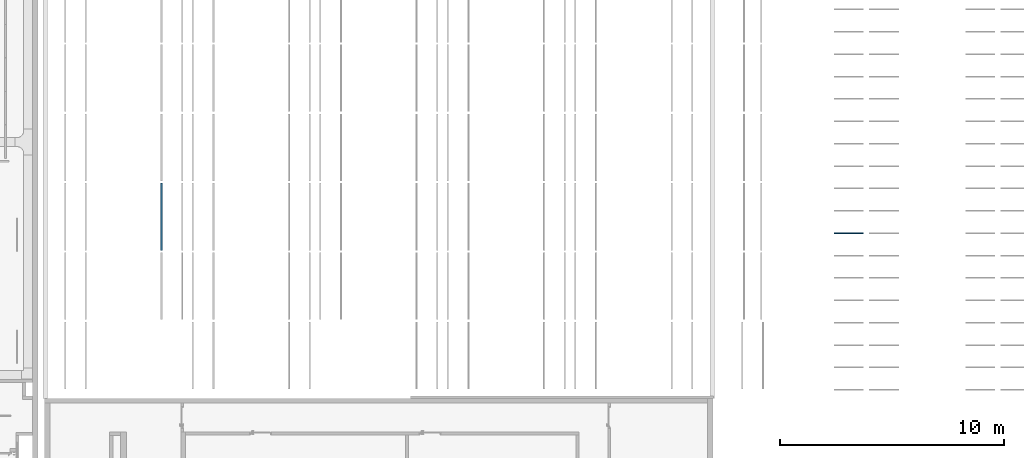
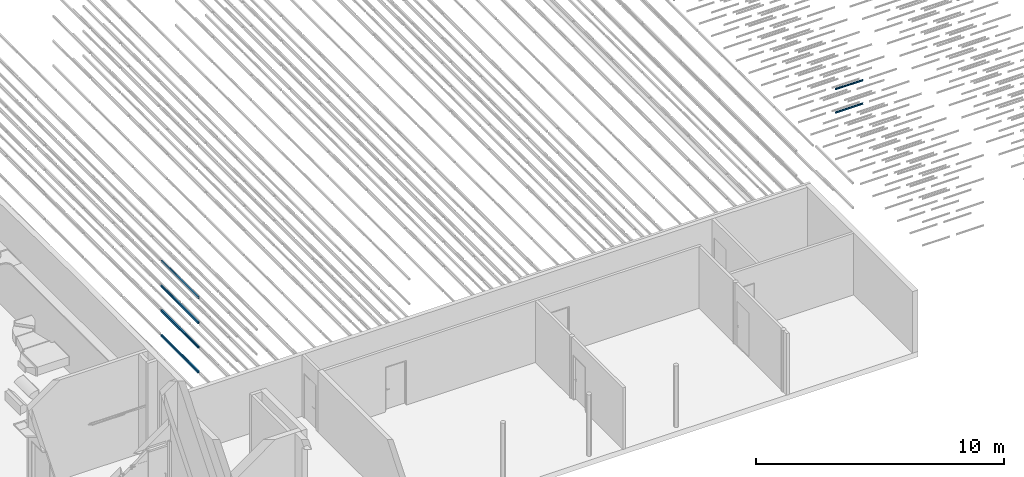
# One storey, part 38 of 290: 8 beams.
"""IFC2X3 building model written with IfcOpenShell, lengths in metres."""

from ifc_helpers import new_model, entity, si_unit, converted_unit, derived_unit, direction, frame, frame_2d, origin, place, context, subcontext, project, spatial, polyline, circle_curve, parameter, trimmed, segment, composite_curve, outline, extrude, material, type_object, element, save


model = new_model("IFC2X3")

# Units and contexts
model_context = context("Model", 3, precision=1e-05, world=origin(), true_north=direction((6.12303176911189e-17, 1.0)))
body_context = subcontext(model_context, "Body", "Model", "MODEL_VIEW")
ifc_project = project(units=[si_unit("LENGTHUNIT", "METRE"), si_unit("AREAUNIT", "SQUARE_METRE"), si_unit("VOLUMEUNIT", "CUBIC_METRE"), converted_unit("PLANEANGLEUNIT", "DEGREE", entity("IfcRatioMeasure", 0.0174532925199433), si_unit("PLANEANGLEUNIT", "RADIAN"), dimensions=[0, 0, 0, 0, 0, 0, 0]), si_unit("MASSUNIT", "GRAM", prefix="KILO"), derived_unit("MASSDENSITYUNIT", [(si_unit("MASSUNIT", "GRAM", prefix="KILO"), 1), (si_unit("LENGTHUNIT", "METRE"), -3)]), derived_unit("MOMENTOFINERTIAUNIT", [(si_unit("LENGTHUNIT", "METRE"), 4)]), si_unit("TIMEUNIT", "SECOND"), si_unit("FREQUENCYUNIT", "HERTZ"), si_unit("THERMODYNAMICTEMPERATUREUNIT", "DEGREE_CELSIUS"), derived_unit("THERMALTRANSMITTANCEUNIT", [(si_unit("MASSUNIT", "GRAM", prefix="KILO"), 1), (si_unit("THERMODYNAMICTEMPERATUREUNIT", "KELVIN"), -1), (si_unit("TIMEUNIT", "SECOND"), -3)]), derived_unit("VOLUMETRICFLOWRATEUNIT", [(si_unit("LENGTHUNIT", "METRE"), 3), (si_unit("TIMEUNIT", "SECOND"), -1)]), si_unit("ELECTRICCURRENTUNIT", "AMPERE"), si_unit("ELECTRICVOLTAGEUNIT", "VOLT"), si_unit("POWERUNIT", "WATT"), si_unit("FORCEUNIT", "NEWTON", prefix="KILO"), si_unit("ILLUMINANCEUNIT", "LUX"), si_unit("LUMINOUSFLUXUNIT", "LUMEN"), si_unit("LUMINOUSINTENSITYUNIT", "CANDELA"), derived_unit("USERDEFINED", [(si_unit("MASSUNIT", "GRAM", prefix="KILO"), -1), (si_unit("LENGTHUNIT", "METRE"), -2), (si_unit("TIMEUNIT", "SECOND"), 3), (si_unit("LUMINOUSFLUXUNIT", "LUMEN"), 1)]), derived_unit("LINEARVELOCITYUNIT", [(si_unit("LENGTHUNIT", "METRE"), 1), (si_unit("TIMEUNIT", "SECOND"), -1)]), si_unit("PRESSUREUNIT", "PASCAL"), derived_unit("USERDEFINED", [(si_unit("LENGTHUNIT", "METRE"), -2), (si_unit("MASSUNIT", "GRAM", prefix="KILO"), 1), (si_unit("TIMEUNIT", "SECOND"), -2)]), derived_unit("LINEARFORCEUNIT", [(si_unit("MASSUNIT", "GRAM", prefix="KILO"), 1), (si_unit("LENGTHUNIT", "METRE"), 1), (si_unit("TIMEUNIT", "SECOND"), -2), (si_unit("LENGTHUNIT", "METRE"), -1)]), derived_unit("PLANARFORCEUNIT", [(si_unit("MASSUNIT", "GRAM", prefix="KILO"), 1), (si_unit("LENGTHUNIT", "METRE"), 1), (si_unit("TIMEUNIT", "SECOND"), -2), (si_unit("LENGTHUNIT", "METRE"), -2)])], contexts=[model_context])

# Site, building, storey
site_placement = place(None, origin())
site = spatial("IfcSite", under=ifc_project, at=site_placement, Name="Default", CompositionType="ELEMENT")
building_placement = place(site_placement, origin())
building = spatial("IfcBuilding", under=site, at=building_placement, CompositionType="ELEMENT")
storey_placement = place(building_placement, frame((0.0, 0.0, 4.0)))
storey = spatial("IfcBuildingStorey", under=building, at=storey_placement, Name="01_OG", CompositionType="ELEMENT", Elevation=4.0)

# Beams
ifc_material_1 = material(Name="Metall - Baustahl S235 blau")
beam_type_1 = type_object("IfcBeamType", Name="RHS Träger (EN 10219-2):RHS 100 x 75 x 5", PredefinedType="NOTDEFINED")
beam_1_placement = place(storey_placement, frame((-202.105111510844, 30.248088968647, -1.2), z_axis=(0.0, 0.0, 1.0), x_axis=(0.0, 1.0, 0.0)))
element("IfcBeam", 1, at=beam_1_placement, inside=storey, type_object=beam_type_1, material=ifc_material_1, Name="RHS Träger (EN 10219-2):RHS 100 x 75 x 5", ObjectType="RHS Träger (EN 10219-2):RHS 100 x 75 x 5", context=body_context, shape_type="SweptSolid", body=[
    extrude(outline(composite_curve([segment(trimmed(circle_curve(frame_2d((-0.0274999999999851, -0.0400000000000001), x_axis=(1.0, 0.0)), 0.01), [parameter(180.0)], [parameter(270.0)], True, "PARAMETER"), True, "CONTINUOUS"), segment(polyline([(-0.0274999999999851, -0.05), (0.0274999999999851, -0.05)]), True, "CONTINUOUS"), segment(trimmed(circle_curve(frame_2d((0.0274999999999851, -0.0400000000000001), x_axis=(1.0, 0.0)), 0.01), [parameter(270.0)], [parameter(5.08888749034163e-14)], True, "PARAMETER"), True, "CONTINUOUS"), segment(polyline([(0.0375000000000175, -0.0400000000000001), (0.0375000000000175, 0.0400000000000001)]), True, "CONTINUOUS"), segment(trimmed(circle_curve(frame_2d((0.0274999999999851, 0.0400000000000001), x_axis=(1.0, 0.0)), 0.01), [parameter(360.0)], [parameter(89.9999999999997)], True, "PARAMETER"), True, "CONTINUOUS"), segment(polyline([(0.0274999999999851, 0.05), (-0.0274999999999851, 0.05)]), True, "CONTINUOUS"), segment(trimmed(circle_curve(frame_2d((-0.0274999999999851, 0.0400000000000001), x_axis=(1.0, 0.0)), 0.01), [parameter(90.0000000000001)], [parameter(180.0)], True, "PARAMETER"), True, "CONTINUOUS"), segment(polyline([(-0.0374999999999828, 0.0400000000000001), (-0.0374999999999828, -0.0400000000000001)]), True, "CONTINUOUS")], self_intersect=False), holes=[composite_curve([segment(polyline([(0.0274999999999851, -0.0450000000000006), (-0.0274999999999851, -0.0450000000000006)]), True, "CONTINUOUS"), segment(trimmed(circle_curve(frame_2d((-0.0274999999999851, -0.0400000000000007), x_axis=(1.0, 0.0)), 0.005), [parameter(180.0)], [parameter(270.0)], True, "PARAMETER"), False, "CONTINUOUS"), segment(polyline([(-0.0325000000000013, -0.0400000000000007), (-0.0325000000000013, 0.039999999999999)]), True, "CONTINUOUS"), segment(trimmed(circle_curve(frame_2d((-0.0274999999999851, 0.039999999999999), x_axis=(1.0, 0.0)), 0.005), [parameter(90.0000000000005)], [parameter(180.0)], True, "PARAMETER"), False, "CONTINUOUS"), segment(polyline([(-0.0274999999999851, 0.044999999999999), (0.0274999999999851, 0.044999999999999)]), True, "CONTINUOUS"), segment(trimmed(circle_curve(frame_2d((0.0274999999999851, 0.039999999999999), x_axis=(1.0, 0.0)), 0.005), [parameter(0.0)], [parameter(90.0000000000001)], True, "PARAMETER"), False, "CONTINUOUS"), segment(polyline([(0.0325000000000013, 0.039999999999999), (0.0325000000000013, -0.0400000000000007)]), True, "CONTINUOUS"), segment(trimmed(circle_curve(frame_2d((0.0274999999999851, -0.0400000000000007), x_axis=(1.0, 0.0)), 0.005), [parameter(270.0)], [parameter(4.07110999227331e-13)], True, "PARAMETER"), False, "CONTINUOUS")], self_intersect=False)]), frame((0.000100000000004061, 0.0375000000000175, -0.0500000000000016), z_axis=(1.0, 0.0, 0.0), x_axis=(0.0, -1.0, 0.0)), (0.0, 0.0, 1.0), 2.9998),
])
beam_2_placement = place(storey_placement, frame((-202.105111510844, 30.248088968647, 0.0150000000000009), z_axis=(0.0, 0.0, 1.0), x_axis=(0.0, 1.0, 0.0)))
element("IfcBeam", 2, at=beam_2_placement, inside=storey, type_object=beam_type_1, material=ifc_material_1, Name="RHS Träger (EN 10219-2):RHS 100 x 75 x 5", ObjectType="RHS Träger (EN 10219-2):RHS 100 x 75 x 5", context=body_context, shape_type="SweptSolid", body=[
    extrude(outline(composite_curve([segment(trimmed(circle_curve(frame_2d((-0.0274999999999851, -0.0400000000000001), x_axis=(1.0, 0.0)), 0.01), [parameter(180.0)], [parameter(270.0)], True, "PARAMETER"), True, "CONTINUOUS"), segment(polyline([(-0.0274999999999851, -0.05), (0.0274999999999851, -0.05)]), True, "CONTINUOUS"), segment(trimmed(circle_curve(frame_2d((0.0274999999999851, -0.0400000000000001), x_axis=(1.0, 0.0)), 0.01), [parameter(270.0)], [parameter(5.08888749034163e-14)], True, "PARAMETER"), True, "CONTINUOUS"), segment(polyline([(0.0375000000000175, -0.0400000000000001), (0.0375000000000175, 0.0400000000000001)]), True, "CONTINUOUS"), segment(trimmed(circle_curve(frame_2d((0.0274999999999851, 0.0400000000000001), x_axis=(1.0, 0.0)), 0.01), [parameter(360.0)], [parameter(89.9999999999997)], True, "PARAMETER"), True, "CONTINUOUS"), segment(polyline([(0.0274999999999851, 0.05), (-0.0274999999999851, 0.05)]), True, "CONTINUOUS"), segment(trimmed(circle_curve(frame_2d((-0.0274999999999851, 0.0400000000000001), x_axis=(1.0, 0.0)), 0.01), [parameter(90.0000000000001)], [parameter(180.0)], True, "PARAMETER"), True, "CONTINUOUS"), segment(polyline([(-0.0374999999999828, 0.0400000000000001), (-0.0374999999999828, -0.0400000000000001)]), True, "CONTINUOUS")], self_intersect=False), holes=[composite_curve([segment(polyline([(0.0274999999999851, -0.0450000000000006), (-0.0274999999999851, -0.0450000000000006)]), True, "CONTINUOUS"), segment(trimmed(circle_curve(frame_2d((-0.0274999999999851, -0.0400000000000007), x_axis=(1.0, 0.0)), 0.005), [parameter(180.0)], [parameter(270.0)], True, "PARAMETER"), False, "CONTINUOUS"), segment(polyline([(-0.0325000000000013, -0.0400000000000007), (-0.0325000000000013, 0.039999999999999)]), True, "CONTINUOUS"), segment(trimmed(circle_curve(frame_2d((-0.0274999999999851, 0.039999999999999), x_axis=(1.0, 0.0)), 0.005), [parameter(90.0000000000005)], [parameter(180.0)], True, "PARAMETER"), False, "CONTINUOUS"), segment(polyline([(-0.0274999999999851, 0.044999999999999), (0.0274999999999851, 0.044999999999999)]), True, "CONTINUOUS"), segment(trimmed(circle_curve(frame_2d((0.0274999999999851, 0.039999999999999), x_axis=(1.0, 0.0)), 0.005), [parameter(0.0)], [parameter(90.0000000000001)], True, "PARAMETER"), False, "CONTINUOUS"), segment(polyline([(0.0325000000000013, 0.039999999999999), (0.0325000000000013, -0.0400000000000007)]), True, "CONTINUOUS"), segment(trimmed(circle_curve(frame_2d((0.0274999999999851, -0.0400000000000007), x_axis=(1.0, 0.0)), 0.005), [parameter(270.0)], [parameter(4.07110999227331e-13)], True, "PARAMETER"), False, "CONTINUOUS")], self_intersect=False)]), frame((0.000100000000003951, 0.0375000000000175, -0.0500000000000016), z_axis=(1.0, 0.0, 0.0), x_axis=(0.0, -1.0, 0.0)), (0.0, 0.0, 1.0), 2.9998),
])
beam_3_placement = place(storey_placement, frame((-202.105111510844, 30.248088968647, 2.445), z_axis=(0.0, 0.0, 1.0), x_axis=(0.0, 1.0, 0.0)))
element("IfcBeam", 3, at=beam_3_placement, inside=storey, type_object=beam_type_1, material=ifc_material_1, Name="RHS Träger (EN 10219-2):RHS 100 x 75 x 5", ObjectType="RHS Träger (EN 10219-2):RHS 100 x 75 x 5", context=body_context, shape_type="SweptSolid", body=[
    extrude(outline(composite_curve([segment(trimmed(circle_curve(frame_2d((-0.0274999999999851, -0.0399999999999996), x_axis=(1.0, 0.0)), 0.01), [parameter(180.0)], [parameter(270.0)], True, "PARAMETER"), True, "CONTINUOUS"), segment(polyline([(-0.0274999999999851, -0.0499999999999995), (0.0274999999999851, -0.0499999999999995)]), True, "CONTINUOUS"), segment(trimmed(circle_curve(frame_2d((0.0274999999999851, -0.0399999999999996), x_axis=(1.0, 0.0)), 0.01), [parameter(270.0)], [parameter(5.08888749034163e-14)], True, "PARAMETER"), True, "CONTINUOUS"), segment(polyline([(0.0375000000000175, -0.0399999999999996), (0.0375000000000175, 0.0399999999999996)]), True, "CONTINUOUS"), segment(trimmed(circle_curve(frame_2d((0.0274999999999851, 0.0399999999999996), x_axis=(1.0, 0.0)), 0.01), [parameter(360.0)], [parameter(89.9999999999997)], True, "PARAMETER"), True, "CONTINUOUS"), segment(polyline([(0.0274999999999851, 0.0500000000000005), (-0.0274999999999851, 0.0500000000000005)]), True, "CONTINUOUS"), segment(trimmed(circle_curve(frame_2d((-0.0274999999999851, 0.0399999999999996), x_axis=(1.0, 0.0)), 0.01), [parameter(90.0000000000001)], [parameter(180.0)], True, "PARAMETER"), True, "CONTINUOUS"), segment(polyline([(-0.0374999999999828, 0.0399999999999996), (-0.0374999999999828, -0.0399999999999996)]), True, "CONTINUOUS")], self_intersect=False), holes=[composite_curve([segment(polyline([(0.0274999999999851, -0.0450000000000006), (-0.0274999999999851, -0.0450000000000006)]), True, "CONTINUOUS"), segment(trimmed(circle_curve(frame_2d((-0.0274999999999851, -0.0400000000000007), x_axis=(1.0, 0.0)), 0.005), [parameter(180.0)], [parameter(270.0)], True, "PARAMETER"), False, "CONTINUOUS"), segment(polyline([(-0.0325000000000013, -0.0400000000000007), (-0.0325000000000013, 0.0399999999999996)]), True, "CONTINUOUS"), segment(trimmed(circle_curve(frame_2d((-0.0274999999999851, 0.0399999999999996), x_axis=(1.0, 0.0)), 0.005), [parameter(90.0000000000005)], [parameter(180.0)], True, "PARAMETER"), False, "CONTINUOUS"), segment(polyline([(-0.0274999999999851, 0.0449999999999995), (0.0274999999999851, 0.0449999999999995)]), True, "CONTINUOUS"), segment(trimmed(circle_curve(frame_2d((0.0274999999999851, 0.0399999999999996), x_axis=(1.0, 0.0)), 0.005), [parameter(0.0)], [parameter(90.0000000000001)], True, "PARAMETER"), False, "CONTINUOUS"), segment(polyline([(0.0325000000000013, 0.0399999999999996), (0.0325000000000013, -0.0400000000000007)]), True, "CONTINUOUS"), segment(trimmed(circle_curve(frame_2d((0.0274999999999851, -0.0400000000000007), x_axis=(1.0, 0.0)), 0.005), [parameter(270.0)], [parameter(4.07110999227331e-13)], True, "PARAMETER"), False, "CONTINUOUS")], self_intersect=False)]), frame((0.000100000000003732, 0.0375000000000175, -0.0500000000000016), z_axis=(1.0, 0.0, 0.0), x_axis=(0.0, -1.0, 0.0)), (0.0, 0.0, 1.0), 2.9998),
])
beam_4_placement = place(storey_placement, frame((-202.115111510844, 30.248088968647, -1.2), z_axis=(0.0, 0.0, 1.0), x_axis=(0.0, 1.0, 0.0)))
element("IfcBeam", 4, at=beam_4_placement, inside=storey, type_object=beam_type_1, material=ifc_material_1, Name="RHS Träger (EN 10219-2):RHS 100 x 75 x 5", ObjectType="RHS Träger (EN 10219-2):RHS 100 x 75 x 5", context=body_context, shape_type="SweptSolid", body=[
    extrude(outline(composite_curve([segment(trimmed(circle_curve(frame_2d((-0.0274999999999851, -0.0400000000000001), x_axis=(1.0, 0.0)), 0.01), [parameter(180.0)], [parameter(270.0)], True, "PARAMETER"), True, "CONTINUOUS"), segment(polyline([(-0.0274999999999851, -0.05), (0.0274999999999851, -0.05)]), True, "CONTINUOUS"), segment(trimmed(circle_curve(frame_2d((0.0274999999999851, -0.0400000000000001), x_axis=(1.0, 0.0)), 0.01), [parameter(270.0)], [parameter(5.08888749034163e-14)], True, "PARAMETER"), True, "CONTINUOUS"), segment(polyline([(0.0375000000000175, -0.0400000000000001), (0.0375000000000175, 0.0400000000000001)]), True, "CONTINUOUS"), segment(trimmed(circle_curve(frame_2d((0.0274999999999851, 0.0400000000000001), x_axis=(1.0, 0.0)), 0.01), [parameter(360.0)], [parameter(89.9999999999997)], True, "PARAMETER"), True, "CONTINUOUS"), segment(polyline([(0.0274999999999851, 0.05), (-0.0274999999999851, 0.05)]), True, "CONTINUOUS"), segment(trimmed(circle_curve(frame_2d((-0.0274999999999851, 0.0400000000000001), x_axis=(1.0, 0.0)), 0.01), [parameter(90.0000000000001)], [parameter(180.0)], True, "PARAMETER"), True, "CONTINUOUS"), segment(polyline([(-0.0374999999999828, 0.0400000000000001), (-0.0374999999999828, -0.0400000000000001)]), True, "CONTINUOUS")], self_intersect=False), holes=[composite_curve([segment(polyline([(0.0274999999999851, -0.0450000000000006), (-0.0274999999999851, -0.0450000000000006)]), True, "CONTINUOUS"), segment(trimmed(circle_curve(frame_2d((-0.0274999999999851, -0.0400000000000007), x_axis=(1.0, 0.0)), 0.005), [parameter(180.0)], [parameter(270.0)], True, "PARAMETER"), False, "CONTINUOUS"), segment(polyline([(-0.0325000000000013, -0.0400000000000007), (-0.0325000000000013, 0.039999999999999)]), True, "CONTINUOUS"), segment(trimmed(circle_curve(frame_2d((-0.0274999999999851, 0.039999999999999), x_axis=(1.0, 0.0)), 0.005), [parameter(90.0000000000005)], [parameter(180.0)], True, "PARAMETER"), False, "CONTINUOUS"), segment(polyline([(-0.0274999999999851, 0.044999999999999), (0.0274999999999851, 0.044999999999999)]), True, "CONTINUOUS"), segment(trimmed(circle_curve(frame_2d((0.0274999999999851, 0.039999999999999), x_axis=(1.0, 0.0)), 0.005), [parameter(0.0)], [parameter(90.0000000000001)], True, "PARAMETER"), False, "CONTINUOUS"), segment(polyline([(0.0325000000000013, 0.039999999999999), (0.0325000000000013, -0.0400000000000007)]), True, "CONTINUOUS"), segment(trimmed(circle_curve(frame_2d((0.0274999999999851, -0.0400000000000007), x_axis=(1.0, 0.0)), 0.005), [parameter(270.0)], [parameter(4.07110999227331e-13)], True, "PARAMETER"), False, "CONTINUOUS")], self_intersect=False)]), frame((0.000100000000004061, 0.0375000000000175, -0.0500000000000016), z_axis=(1.0, 0.0, 0.0), x_axis=(0.0, -1.0, 0.0)), (0.0, 0.0, 1.0), 2.9998),
])
beam_5_placement = place(storey_placement, frame((-202.115111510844, 30.248088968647, 0.0150000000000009), z_axis=(0.0, 0.0, 1.0), x_axis=(0.0, 1.0, 0.0)))
element("IfcBeam", 5, at=beam_5_placement, inside=storey, type_object=beam_type_1, material=ifc_material_1, Name="RHS Träger (EN 10219-2):RHS 100 x 75 x 5", ObjectType="RHS Träger (EN 10219-2):RHS 100 x 75 x 5", context=body_context, shape_type="SweptSolid", body=[
    extrude(outline(composite_curve([segment(trimmed(circle_curve(frame_2d((-0.0274999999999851, -0.0400000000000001), x_axis=(1.0, 0.0)), 0.01), [parameter(180.0)], [parameter(270.0)], True, "PARAMETER"), True, "CONTINUOUS"), segment(polyline([(-0.0274999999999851, -0.05), (0.0274999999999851, -0.05)]), True, "CONTINUOUS"), segment(trimmed(circle_curve(frame_2d((0.0274999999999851, -0.0400000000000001), x_axis=(1.0, 0.0)), 0.01), [parameter(270.0)], [parameter(5.08888749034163e-14)], True, "PARAMETER"), True, "CONTINUOUS"), segment(polyline([(0.0375000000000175, -0.0400000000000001), (0.0375000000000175, 0.0400000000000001)]), True, "CONTINUOUS"), segment(trimmed(circle_curve(frame_2d((0.0274999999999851, 0.0400000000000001), x_axis=(1.0, 0.0)), 0.01), [parameter(360.0)], [parameter(89.9999999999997)], True, "PARAMETER"), True, "CONTINUOUS"), segment(polyline([(0.0274999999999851, 0.05), (-0.0274999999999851, 0.05)]), True, "CONTINUOUS"), segment(trimmed(circle_curve(frame_2d((-0.0274999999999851, 0.0400000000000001), x_axis=(1.0, 0.0)), 0.01), [parameter(90.0000000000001)], [parameter(180.0)], True, "PARAMETER"), True, "CONTINUOUS"), segment(polyline([(-0.0374999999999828, 0.0400000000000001), (-0.0374999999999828, -0.0400000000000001)]), True, "CONTINUOUS")], self_intersect=False), holes=[composite_curve([segment(polyline([(0.0274999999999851, -0.0450000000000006), (-0.0274999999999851, -0.0450000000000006)]), True, "CONTINUOUS"), segment(trimmed(circle_curve(frame_2d((-0.0274999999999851, -0.0400000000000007), x_axis=(1.0, 0.0)), 0.005), [parameter(180.0)], [parameter(270.0)], True, "PARAMETER"), False, "CONTINUOUS"), segment(polyline([(-0.0325000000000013, -0.0400000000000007), (-0.0325000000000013, 0.039999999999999)]), True, "CONTINUOUS"), segment(trimmed(circle_curve(frame_2d((-0.0274999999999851, 0.039999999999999), x_axis=(1.0, 0.0)), 0.005), [parameter(90.0000000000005)], [parameter(180.0)], True, "PARAMETER"), False, "CONTINUOUS"), segment(polyline([(-0.0274999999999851, 0.044999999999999), (0.0274999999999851, 0.044999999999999)]), True, "CONTINUOUS"), segment(trimmed(circle_curve(frame_2d((0.0274999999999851, 0.039999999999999), x_axis=(1.0, 0.0)), 0.005), [parameter(0.0)], [parameter(90.0000000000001)], True, "PARAMETER"), False, "CONTINUOUS"), segment(polyline([(0.0325000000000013, 0.039999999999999), (0.0325000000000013, -0.0400000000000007)]), True, "CONTINUOUS"), segment(trimmed(circle_curve(frame_2d((0.0274999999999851, -0.0400000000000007), x_axis=(1.0, 0.0)), 0.005), [parameter(270.0)], [parameter(4.07110999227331e-13)], True, "PARAMETER"), False, "CONTINUOUS")], self_intersect=False)]), frame((0.000100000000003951, 0.0375000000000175, -0.0500000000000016), z_axis=(1.0, 0.0, 0.0), x_axis=(0.0, -1.0, 0.0)), (0.0, 0.0, 1.0), 2.9998),
])
beam_6_placement = place(storey_placement, frame((-202.115111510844, 30.248088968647, 1.23), z_axis=(0.0, 0.0, 1.0), x_axis=(0.0, 1.0, 0.0)))
element("IfcBeam", 6, at=beam_6_placement, inside=storey, type_object=beam_type_1, material=ifc_material_1, Name="RHS Träger (EN 10219-2):RHS 100 x 75 x 5", ObjectType="RHS Träger (EN 10219-2):RHS 100 x 75 x 5", context=body_context, shape_type="SweptSolid", body=[
    extrude(outline(composite_curve([segment(trimmed(circle_curve(frame_2d((-0.0274999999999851, -0.0399999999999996), x_axis=(1.0, 0.0)), 0.01), [parameter(180.0)], [parameter(270.0)], True, "PARAMETER"), True, "CONTINUOUS"), segment(polyline([(-0.0274999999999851, -0.0499999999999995), (0.0274999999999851, -0.0499999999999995)]), True, "CONTINUOUS"), segment(trimmed(circle_curve(frame_2d((0.0274999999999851, -0.0399999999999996), x_axis=(1.0, 0.0)), 0.01), [parameter(270.0)], [parameter(5.08888749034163e-14)], True, "PARAMETER"), True, "CONTINUOUS"), segment(polyline([(0.0375000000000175, -0.0399999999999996), (0.0375000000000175, 0.0399999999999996)]), True, "CONTINUOUS"), segment(trimmed(circle_curve(frame_2d((0.0274999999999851, 0.0399999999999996), x_axis=(1.0, 0.0)), 0.01), [parameter(360.0)], [parameter(89.9999999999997)], True, "PARAMETER"), True, "CONTINUOUS"), segment(polyline([(0.0274999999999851, 0.0500000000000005), (-0.0274999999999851, 0.0500000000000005)]), True, "CONTINUOUS"), segment(trimmed(circle_curve(frame_2d((-0.0274999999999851, 0.0399999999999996), x_axis=(1.0, 0.0)), 0.01), [parameter(90.0000000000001)], [parameter(180.0)], True, "PARAMETER"), True, "CONTINUOUS"), segment(polyline([(-0.0374999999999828, 0.0399999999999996), (-0.0374999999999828, -0.0399999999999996)]), True, "CONTINUOUS")], self_intersect=False), holes=[composite_curve([segment(polyline([(0.0274999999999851, -0.0450000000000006), (-0.0274999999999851, -0.0450000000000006)]), True, "CONTINUOUS"), segment(trimmed(circle_curve(frame_2d((-0.0274999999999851, -0.0400000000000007), x_axis=(1.0, 0.0)), 0.005), [parameter(180.0)], [parameter(270.0)], True, "PARAMETER"), False, "CONTINUOUS"), segment(polyline([(-0.0325000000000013, -0.0400000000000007), (-0.0325000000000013, 0.0399999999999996)]), True, "CONTINUOUS"), segment(trimmed(circle_curve(frame_2d((-0.0274999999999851, 0.0399999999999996), x_axis=(1.0, 0.0)), 0.005), [parameter(90.0000000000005)], [parameter(180.0)], True, "PARAMETER"), False, "CONTINUOUS"), segment(polyline([(-0.0274999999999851, 0.0449999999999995), (0.0274999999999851, 0.0449999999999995)]), True, "CONTINUOUS"), segment(trimmed(circle_curve(frame_2d((0.0274999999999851, 0.0399999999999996), x_axis=(1.0, 0.0)), 0.005), [parameter(0.0)], [parameter(90.0000000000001)], True, "PARAMETER"), False, "CONTINUOUS"), segment(polyline([(0.0325000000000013, 0.0399999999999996), (0.0325000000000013, -0.0400000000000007)]), True, "CONTINUOUS"), segment(trimmed(circle_curve(frame_2d((0.0274999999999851, -0.0400000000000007), x_axis=(1.0, 0.0)), 0.005), [parameter(270.0)], [parameter(4.07110999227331e-13)], True, "PARAMETER"), False, "CONTINUOUS")], self_intersect=False)]), frame((0.000100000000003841, 0.0375000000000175, -0.0500000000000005), z_axis=(1.0, 0.0, 0.0), x_axis=(0.0, -1.0, 0.0)), (0.0, 0.0, 1.0), 2.9998),
])
ifc_material_2 = material(Name="Metall - Baustahl S235")
beam_type_2 = type_object("IfcBeamType", Name="IPN Träger:IPN 80", PredefinedType="NOTDEFINED")
beam_7_placement = place(storey_placement, frame((-170.780111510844, 31.036588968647, 0.570000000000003), z_axis=(0.0, 0.0, 1.0), x_axis=(-1.0, 0.0, 0.0)))
element("IfcBeam", 7, at=beam_7_placement, inside=storey, type_object=beam_type_2, material=ifc_material_2, Name="IPN Träger:IPN 80", ObjectType="IPN Träger:IPN 80", context=body_context, shape_type="SweptSolid", body=[
    extrude(outline(composite_curve([segment(polyline([(0.0375704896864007, -0.0209999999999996), (0.0400000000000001, -0.0209999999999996)]), True, "CONTINUOUS"), segment(polyline([(0.0400000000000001, -0.0209999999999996), (0.0400000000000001, 0.0209999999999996)]), True, "CONTINUOUS"), segment(polyline([(0.0400000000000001, 0.0209999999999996), (0.0375704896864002, 0.0209999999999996)]), True, "CONTINUOUS"), segment(trimmed(circle_curve(frame_2d((0.0375704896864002, 0.0187000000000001), x_axis=(0.0, 1.0)), 0.00230000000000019), [parameter(0.0)], [parameter(82.02999999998)], True, "PARAMETER"), True, "CONTINUOUS"), segment(polyline([(0.0352927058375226, 0.0190189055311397), (0.0333732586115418, 0.00530924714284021)]), True, "CONTINUOUS"), segment(trimmed(circle_curve(frame_2d((0.0295109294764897, 0.00584999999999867), x_axis=(0.990340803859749, -0.138654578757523)), 0.00389999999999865), [parameter(277.969999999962)], [parameter(0.0)], True, "PARAMETER"), False, "CONTINUOUS"), segment(polyline([(0.0295109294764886, 0.00194999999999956), (-0.0295109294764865, 0.00194999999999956)]), True, "CONTINUOUS"), segment(trimmed(circle_curve(frame_2d((-0.0295109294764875, 0.00584999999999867), x_axis=(0.0, -1.0)), 0.00389999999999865), [parameter(277.969999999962)], [parameter(0.0)], True, "PARAMETER"), False, "CONTINUOUS"), segment(polyline([(-0.0333732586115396, 0.00530924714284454), (-0.0352927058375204, 0.019018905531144)]), True, "CONTINUOUS"), segment(trimmed(circle_curve(frame_2d((-0.0375704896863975, 0.0187000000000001), x_axis=(0.990340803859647, 0.138654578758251)), 0.00230000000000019), [parameter(0.0)], [parameter(82.02999999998)], True, "PARAMETER"), True, "CONTINUOUS"), segment(polyline([(-0.037570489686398, 0.0209999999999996), (-0.0400000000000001, 0.0209999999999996)]), True, "CONTINUOUS"), segment(polyline([(-0.0400000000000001, 0.0209999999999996), (-0.0400000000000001, -0.0209999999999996)]), True, "CONTINUOUS"), segment(polyline([(-0.0400000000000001, -0.0209999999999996), (-0.0375704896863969, -0.0209999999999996)]), True, "CONTINUOUS"), segment(trimmed(circle_curve(frame_2d((-0.0375704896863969, -0.0187000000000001), x_axis=(0.0, -1.0)), 0.00230000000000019), [parameter(0.0)], [parameter(82.02999999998)], True, "PARAMETER"), True, "CONTINUOUS"), segment(polyline([(-0.0352927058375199, -0.0190189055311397), (-0.0333732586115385, -0.00530924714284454)]), True, "CONTINUOUS"), segment(trimmed(circle_curve(frame_2d((-0.029510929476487, -0.00584999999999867), x_axis=(-0.990340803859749, 0.138654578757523)), 0.00389999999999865), [parameter(277.969999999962)], [parameter(0.0)], True, "PARAMETER"), False, "CONTINUOUS"), segment(polyline([(-0.0295109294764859, -0.00194999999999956), (0.0295109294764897, -0.00194999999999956)]), True, "CONTINUOUS"), segment(trimmed(circle_curve(frame_2d((0.0295109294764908, -0.00584999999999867), x_axis=(0.0, 1.0)), 0.00389999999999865), [parameter(277.969999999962)], [parameter(0.0)], True, "PARAMETER"), False, "CONTINUOUS"), segment(polyline([(0.0333732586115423, -0.00530924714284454), (0.0352927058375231, -0.019018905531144)]), True, "CONTINUOUS"), segment(trimmed(circle_curve(frame_2d((0.0375704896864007, -0.0187000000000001), x_axis=(-0.990340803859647, -0.138654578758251)), 0.00230000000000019), [parameter(0.0)], [parameter(82.02999999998)], True, "PARAMETER"), True, "CONTINUOUS")], self_intersect=False)), frame((0.000100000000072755, 0.0209999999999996, -0.0400000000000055), z_axis=(1.0, 0.0, 0.0), x_axis=(0.0, 0.0, -1.0)), (0.0, 0.0, 1.0), 1.29990000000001),
])
beam_8_placement = place(storey_placement, frame((-170.780111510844, 31.036588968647, 1.72), z_axis=(0.0, 0.0, 1.0), x_axis=(-1.0, 0.0, 0.0)))
element("IfcBeam", 8, at=beam_8_placement, inside=storey, type_object=beam_type_2, material=ifc_material_2, Name="IPN Träger:IPN 80", ObjectType="IPN Träger:IPN 80", context=body_context, shape_type="SweptSolid", body=[
    extrude(outline(composite_curve([segment(polyline([(0.0375704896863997, -0.0209999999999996), (0.0399999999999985, -0.0209999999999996)]), True, "CONTINUOUS"), segment(polyline([(0.0399999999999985, -0.0209999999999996), (0.0399999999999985, 0.0209999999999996)]), True, "CONTINUOUS"), segment(polyline([(0.0399999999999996, 0.0209999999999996), (0.0375704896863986, 0.0209999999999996)]), True, "CONTINUOUS"), segment(trimmed(circle_curve(frame_2d((0.0375704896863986, 0.0187000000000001), x_axis=(0.0, 1.0)), 0.00230000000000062), [parameter(0.0)], [parameter(82.0299999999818)], True, "PARAMETER"), True, "CONTINUOUS"), segment(polyline([(0.0352927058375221, 0.0190189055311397), (0.0333732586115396, 0.00530924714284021)]), True, "CONTINUOUS"), segment(trimmed(circle_curve(frame_2d((0.0295109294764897, 0.00584999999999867), x_axis=(0.990340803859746, -0.138654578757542)), 0.00389999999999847), [parameter(277.969999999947)], [parameter(0.0)], True, "PARAMETER"), False, "CONTINUOUS"), segment(polyline([(0.0295109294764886, 0.00194999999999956), (-0.0295109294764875, 0.00194999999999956)]), True, "CONTINUOUS"), segment(trimmed(circle_curve(frame_2d((-0.0295109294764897, 0.00584999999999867), x_axis=(0.0, -1.0)), 0.00389999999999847), [parameter(277.969999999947)], [parameter(0.0)], True, "PARAMETER"), False, "CONTINUOUS"), segment(polyline([(-0.0333732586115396, 0.00530924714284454), (-0.0352927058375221, 0.019018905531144)]), True, "CONTINUOUS"), segment(trimmed(circle_curve(frame_2d((-0.0375704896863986, 0.0187000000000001), x_axis=(0.990340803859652, 0.138654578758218)), 0.00230000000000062), [parameter(0.0)], [parameter(82.0299999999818)], True, "PARAMETER"), True, "CONTINUOUS"), segment(polyline([(-0.0375704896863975, 0.0209999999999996), (-0.0400000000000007, 0.0209999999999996)]), True, "CONTINUOUS"), segment(polyline([(-0.0400000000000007, 0.0209999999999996), (-0.0400000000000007, -0.0209999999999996)]), True, "CONTINUOUS"), segment(polyline([(-0.0400000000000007, -0.0209999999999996), (-0.0375704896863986, -0.0209999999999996)]), True, "CONTINUOUS"), segment(trimmed(circle_curve(frame_2d((-0.0375704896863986, -0.0187000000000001), x_axis=(0.0, -1.0)), 0.00230000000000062), [parameter(0.0)], [parameter(82.0299999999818)], True, "PARAMETER"), True, "CONTINUOUS"), segment(polyline([(-0.035292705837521, -0.0190189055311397), (-0.0333732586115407, -0.00530924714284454)]), True, "CONTINUOUS"), segment(trimmed(circle_curve(frame_2d((-0.0295109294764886, -0.00584999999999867), x_axis=(-0.990340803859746, 0.138654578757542)), 0.00389999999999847), [parameter(277.969999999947)], [parameter(0.0)], True, "PARAMETER"), False, "CONTINUOUS"), segment(polyline([(-0.0295109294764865, -0.00194999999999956), (0.0295109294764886, -0.00194999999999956)]), True, "CONTINUOUS"), segment(trimmed(circle_curve(frame_2d((0.0295109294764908, -0.00584999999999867), x_axis=(0.0, 1.0)), 0.00389999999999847), [parameter(277.969999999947)], [parameter(0.0)], True, "PARAMETER"), False, "CONTINUOUS"), segment(polyline([(0.0333732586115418, -0.00530924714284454), (0.0352927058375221, -0.019018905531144)]), True, "CONTINUOUS"), segment(trimmed(circle_curve(frame_2d((0.0375704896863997, -0.0187000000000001), x_axis=(-0.990340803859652, -0.138654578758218)), 0.00230000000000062), [parameter(0.0)], [parameter(82.0299999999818)], True, "PARAMETER"), True, "CONTINUOUS")], self_intersect=False)), frame((0.000100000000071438, 0.0209999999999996, -0.040000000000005), z_axis=(1.0, 0.0, 0.0), x_axis=(0.0, 0.0, -1.0)), (0.0, 0.0, 1.0), 1.29990000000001),
])

save(model, "model.ifc")
